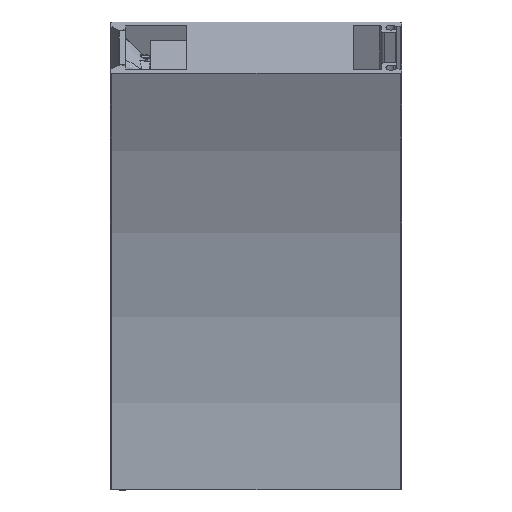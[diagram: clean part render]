
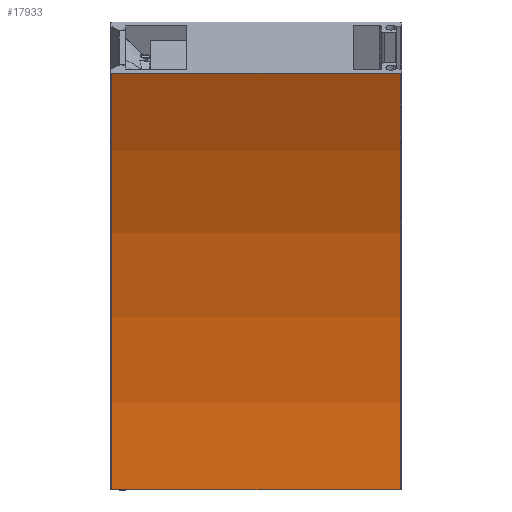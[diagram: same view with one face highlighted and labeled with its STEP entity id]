
A CAD part, left-side view. The second image highlights one B-rep face of the part: STEP entity #17933.
In plain terms, the highlighted cylindrical face has radius 272.2 mm (diameter 544.4 mm), a partial arc.
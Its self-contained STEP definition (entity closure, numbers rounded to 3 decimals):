
#2302=CYLINDRICAL_SURFACE('',#19124,272.2);
#2411=LINE('',#24812,#3010);
#2412=LINE('',#24814,#3011);
#3010=VECTOR('',#20870,10.);
#3011=VECTOR('',#20871,10.);
#3890=FACE_OUTER_BOUND('',#4980,.T.);
#4980=EDGE_LOOP('',(#11977,#11978,#11979,#11980));
#6172=CIRCLE('',#19123,272.2);
#6173=CIRCLE('',#19125,272.2);
#7041=VERTEX_POINT('',#24805);
#7042=VERTEX_POINT('',#24807);
#7043=VERTEX_POINT('',#24811);
#7044=VERTEX_POINT('',#24813);
#8980=EDGE_CURVE('',#7041,#7042,#6172,.T.);
#8981=EDGE_CURVE('',#7043,#7041,#2411,.T.);
#8982=EDGE_CURVE('',#7044,#7042,#2412,.T.);
#8983=EDGE_CURVE('',#7043,#7044,#6173,.T.);
#11977=ORIENTED_EDGE('',*,*,#8981,.T.);
#11978=ORIENTED_EDGE('',*,*,#8980,.T.);
#11979=ORIENTED_EDGE('',*,*,#8982,.F.);
#11980=ORIENTED_EDGE('',*,*,#8983,.F.);
#17933=ADVANCED_FACE('',(#3890),#2302,.F.);
#19123=AXIS2_PLACEMENT_3D('',#24809,#20866,#20867);
#19124=AXIS2_PLACEMENT_3D('',#24810,#20868,#20869);
#19125=AXIS2_PLACEMENT_3D('',#24815,#20872,#20873);
#20866=DIRECTION('center_axis',(0.,-1.,0.));
#20867=DIRECTION('ref_axis',(1.,0.,0.));
#20868=DIRECTION('center_axis',(0.,-1.,0.));
#20869=DIRECTION('ref_axis',(1.,0.,0.));
#20870=DIRECTION('',(0.,-1.,0.));
#20871=DIRECTION('',(0.,-1.,0.));
#20872=DIRECTION('center_axis',(0.,-1.,0.));
#20873=DIRECTION('ref_axis',(1.,0.,0.));
#24805=CARTESIAN_POINT('',(-18.595,-41.736,0.));
#24807=CARTESIAN_POINT('',(-55.062,-41.736,136.1));
#24809=CARTESIAN_POINT('Origin',(-290.795,-41.736,0.));
#24810=CARTESIAN_POINT('Origin',(-290.795,5.314,0.));
#24811=CARTESIAN_POINT('',(-18.595,52.364,0.));
#24812=CARTESIAN_POINT('',(-18.595,52.364,0.));
#24813=CARTESIAN_POINT('',(-55.062,52.364,136.1));
#24814=CARTESIAN_POINT('',(-55.062,52.364,136.1));
#24815=CARTESIAN_POINT('Origin',(-290.795,52.364,0.));
